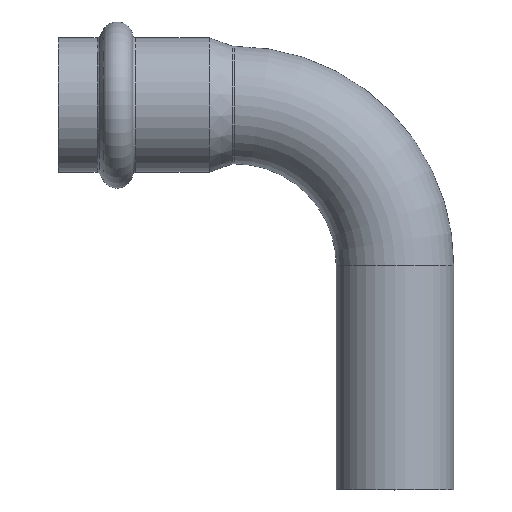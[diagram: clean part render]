
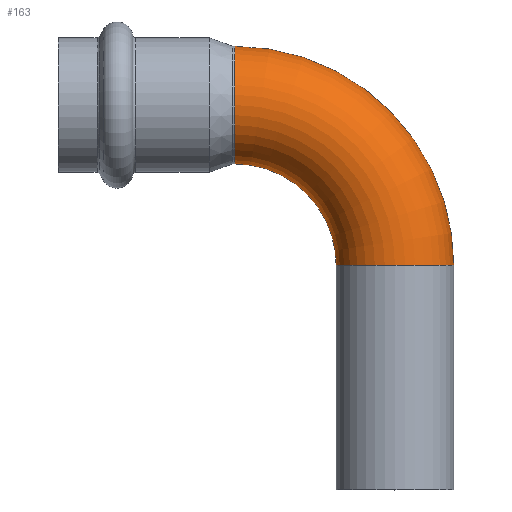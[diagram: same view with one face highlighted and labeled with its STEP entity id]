
A CAD part, top view. The second image highlights one B-rep face of the part: STEP entity #163.
In plain terms, the highlighted toroidal (fillet/blend) face has major radius 30 mm and minor radius 11 mm.
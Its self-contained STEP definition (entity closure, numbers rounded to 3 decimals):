
#132=CARTESIAN_POINT('',(30.0,-30.,-11.0));
#133=VERTEX_POINT('',#132);
#134=CARTESIAN_POINT('',(30.0,-30.0,0.0));
#135=DIRECTION('',(0.0,1.0,0.0));
#136=DIRECTION('',(0.0,0.0,1.0));
#137=AXIS2_PLACEMENT_3D('',#134,#135,#136);
#138=CIRCLE('',#137,11.0);
#139=EDGE_CURVE('',#133,#133,#138,.T.);
#144=CARTESIAN_POINT('',(0.0,-30.0,0.0));
#145=DIRECTION('',(0.0,0.0,-1.0));
#146=DIRECTION('',(-1.0,0.0,0.0));
#147=AXIS2_PLACEMENT_3D('',#144,#145,#146);
#148=TOROIDAL_SURFACE('',#147,30.0,11.0);
#149=ORIENTED_EDGE('',*,*,#139,.T.);
#150=EDGE_LOOP('',(#149));
#151=FACE_OUTER_BOUND('',#150,.T.);
#152=CARTESIAN_POINT('',(0.,11.0,0.0));
#153=VERTEX_POINT('',#152);
#154=CARTESIAN_POINT('',(0.,0.,0.0));
#155=DIRECTION('',(1.0,0.0,0.0));
#156=DIRECTION('',(0.0,1.0,0.0));
#157=AXIS2_PLACEMENT_3D('',#154,#155,#156);
#158=CIRCLE('',#157,11.0);
#159=EDGE_CURVE('',#153,#153,#158,.T.);
#160=ORIENTED_EDGE('',*,*,#159,.T.);
#161=EDGE_LOOP('',(#160));
#162=FACE_BOUND('',#161,.T.);
#163=ADVANCED_FACE('',(#151,#162),#148,.T.);
